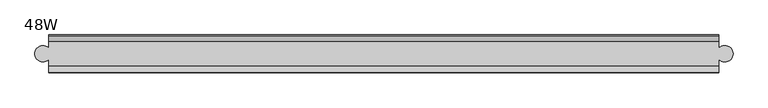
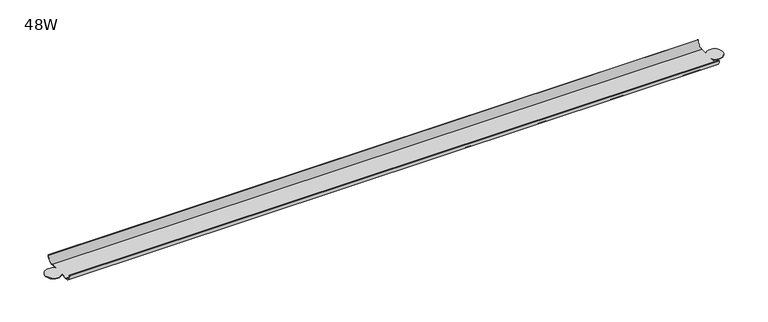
"""IFC4 building model written with IfcOpenShell, lengths in millimetres: furniture geometry, Steelcase - Groupwork - Marker Tray : 48W."""

from ifc_helpers import new_model, si_unit, frame, origin, place, context, project, spatial, polyline, circle_curve, source, transform, mapped, element, save
from ifc_brep_helpers import plane_surface, cylinder_surface, revolved_surface, advanced_brep


def furniture_48w_9118acb4(model_context):
    return source(origin(), model_context, "Body", "AdvancedBrep", [
        advanced_brep(
        [(1191.6429397, 212.2245693, 1687.0172), (23.241, 212.2245693, 1687.0172), (23.241, 202.0295313, 1698.4980698), (1191.6429397, 202.0295313, 1698.4980698), (23.241, 200.7958824, 1698.4980698), (1191.6429397, 200.7958824, 1698.4980698), (23.241, 212.2245693, 1685.798), (1191.6429397, 212.2245693, 1685.798), (23.241, 223.9010128, 1685.798), (23.241, 244.1629734, 1685.798), (23.241, 255.3029693, 1685.798), (1191.6429397, 255.3029693, 1685.798), (1191.6429397, 243.3482016, 1685.798), (1191.6429397, 224.7157845, 1685.798), (23.241, 266.7329688, 1698.4980698), (1191.6429397, 266.7329688, 1698.4980698), (23.241, 265.5137686, 1698.4980698), (1191.6429397, 265.5137686, 1698.4980698), (23.241, 255.3029693, 1687.0172), (1191.6429397, 255.3029693, 1687.0172), (1191.6429397, 224.7157845, 1687.0172), (1191.6429397, 243.3482016, 1687.0172), (23.241, 244.1629734, 1687.0172), (23.241, 223.9010128, 1687.0172)],
        [
            (0, 1),
            (1, 2, circle_curve(frame((23.241, 212.2245693, 1697.2842432), z_axis=(-1.0, 0.0, 0.0), x_axis=(0.0, -1.0, 0.0)), 10.2670432)),
            (2, 3),
            (3, 0, circle_curve(frame((1191.6429397, 212.2245693, 1697.2842432), z_axis=(1.0, 0.0, 0.0), x_axis=(0.0, -1.0, 0.0)), 10.2670432)),
            (2, 4),
            (4, 5),
            (5, 3),
            (4, 6, circle_curve(frame((23.241, 212.2245693, 1697.2903249), z_axis=(1.0, 0.0, 0.0), x_axis=(0.0, -1.0, 0.0)), 11.4923249)),
            (6, 7),
            (7, 5, circle_curve(frame((1191.6429397, 212.2245693, 1697.2903249), z_axis=(-1.0, 0.0, 0.0), x_axis=(0.0, -1.0, 0.0)), 11.4923249)),
            (6, 8),
            (8, 9, circle_curve(frame((13.2330891, 234.0319931, 1685.798), z_axis=(0.0, 0.0, -1.0), x_axis=(1.0, 0.0, 0.0)), 14.2406124)),
            (9, 10),
            (10, 11),
            (11, 12),
            (12, 13, circle_curve(frame((1202.4134226, 234.0319931, 1685.798), z_axis=(0.0, 0.0, -1.0), x_axis=(1.0, 0.0, 0.0)), 14.2406124)),
            (13, 7),
            (10, 14, circle_curve(frame((23.241, 255.3029693, 1697.2915061), z_axis=(1.0, 0.0, 0.0), x_axis=(0.0, -1.0, 0.0)), 11.4935061)),
            (14, 15),
            (15, 11, circle_curve(frame((1191.6429397, 255.3029693, 1697.2915061), z_axis=(-1.0, 0.0, 0.0), x_axis=(0.0, -1.0, 0.0)), 11.4935061)),
            (14, 16),
            (16, 17),
            (17, 15),
            (16, 18, circle_curve(frame((23.241, 255.3029693, 1697.29825), z_axis=(-1.0, 0.0, 0.0), x_axis=(0.0, -1.0, 0.0)), 10.28105)),
            (18, 19),
            (19, 17, circle_curve(frame((1191.6429397, 255.3029693, 1697.29825), z_axis=(1.0, 0.0, 0.0), x_axis=(0.0, -1.0, 0.0)), 10.28105)),
            (0, 20),
            (20, 21, circle_curve(frame((1202.4134226, 234.0319931, 1687.0172), z_axis=(0.0, 0.0, 1.0), x_axis=(1.0, 0.0, 0.0)), 14.2406124)),
            (21, 19),
            (18, 22),
            (22, 23, circle_curve(frame((13.2330891, 234.0319931, 1687.0172), z_axis=(0.0, 0.0, 1.0), x_axis=(1.0, 0.0, 0.0)), 14.2406124)),
            (23, 1),
            (23, 8),
            (22, 9),
            (21, 12),
            (20, 13),
        ],
        [
            revolved_surface(polyline([(23.241, 201.95752610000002, 1697.2842432), (1191.6429397, 201.95752610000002, 1697.2842432)]), (-2.159, 212.2245693, 1697.2842432), (-1.0, 0.0, 0.0)),
            plane_surface(frame((1217.041, 202.0295313, 1698.4980698), z_axis=(0.0, 0.0, 1.0), x_axis=(-1.0, 0.0, 0.0))),
            cylinder_surface(frame((-2.159, 212.2245693, 1697.2903249), z_axis=(1.0, 0.0, 0.0), x_axis=(0.0, -1.0, 0.0)), 11.4923249),
            plane_surface(frame((1217.041, 212.2245693, 1685.798), z_axis=(0.0, 0.0, -1.0), x_axis=(-1.0, 0.0, 0.0))),
            cylinder_surface(frame((-2.159, 255.3029693, 1697.2915061), z_axis=(1.0, 0.0, 0.0), x_axis=(0.0, -1.0, 0.0)), 11.4935061),
            plane_surface(frame((1217.041, 266.7329688, 1698.4980698), z_axis=(0.0, 0.0, 1.0), x_axis=(-1.0, 0.0, 0.0))),
            revolved_surface(polyline([(23.241, 245.0219193, 1697.29825), (1191.6429397, 245.0219193, 1697.29825)]), (-2.159, 255.3029693, 1697.29825), (-1.0, 0.0, 0.0)),
            plane_surface(frame((1217.041, 255.3029693, 1687.0172), z_axis=(0.0, 0.0, 1.0), x_axis=(-1.0, 0.0, 0.0))),
            plane_surface(frame((23.241, 192.9089405, 1948.5186421), z_axis=(-1.0, 0.0, 0.0), x_axis=(0.0, 0.0, -1.0))),
            cylinder_surface(frame((13.2330891, 234.0319931, 0.0), z_axis=(0.0, 0.0, -1.0), x_axis=(1.0, 0.0, 0.0)), 14.2406124),
            plane_surface(frame((23.241, 244.1629734, 1948.5186421), z_axis=(-1.0, 0.0, 0.0), x_axis=(0.0, 0.0, -1.0))),
            plane_surface(frame((1191.6429397, 277.7490046, 1948.5186421), z_axis=(1.0, 0.0, 0.0), x_axis=(0.0, 0.0, -1.0))),
            cylinder_surface(frame((1202.4134226, 234.0319931, 0.0), z_axis=(0.0, 0.0, -1.0), x_axis=(1.0, 0.0, 0.0)), 14.2406124),
            plane_surface(frame((1191.6429397, 224.7157845, 1948.5186421), z_axis=(1.0, 0.0, 0.0), x_axis=(0.0, 0.0, -1.0))),
        ],
        [
            (0, [[1, 2, 3, 4]]),
            (1, [[-3, 5, 6, 7]]),
            (2, [[-6, 8, 9, 10]]),
            (3, [[-9, 11, 12, 13, 14, 15, 16, 17]]),
            (4, [[-14, 18, 19, 20]]),
            (5, [[-19, 21, 22, 23]]),
            (6, [[-22, 24, 25, 26]]),
            (7, [[-1, 27, 28, 29, -25, 30, 31, 32]]),
            (8, [[33, -11, -8, -5, -2, -32]]),
            (9, [[-33, -31, 34, -12]]),
            (10, [[-34, -30, -24, -21, -18, -13]]),
            (11, [[35, -15, -20, -23, -26, -29]]),
            (12, [[-35, -28, 36, -16]]),
            (13, [[-36, -27, -4, -7, -10, -17]]),
        ],
    ),
    ])


if __name__ == "__main__":
    model = new_model("IFC4")
    model_context = context("Model", 3, world=origin())
    ifc_project = project(units=[si_unit("LENGTHUNIT", "METRE", prefix="MILLI")], contexts=[model_context])
    site = spatial("IfcSite", under=ifc_project)
    building = spatial("IfcBuilding", under=site)
    placement = place(None, origin())
    furniture_48w_shape = furniture_48w_9118acb4(model_context)
    element("IfcFurniture", 1, ObjectType="Steelcase - Groupwork - Marker Tray : 48W", at=placement, inside=building, context=model_context, shape_type="MappedRepresentation", body=[
        mapped(furniture_48w_shape, transform((0.0, 0.0, 0.0), x_axis=(1.0, 0.0, 0.0), y_axis=(0.0, 1.0, 0.0), z_axis=(0.0, 0.0, 1.0))),
    ])
    save(model, "model.ifc")
